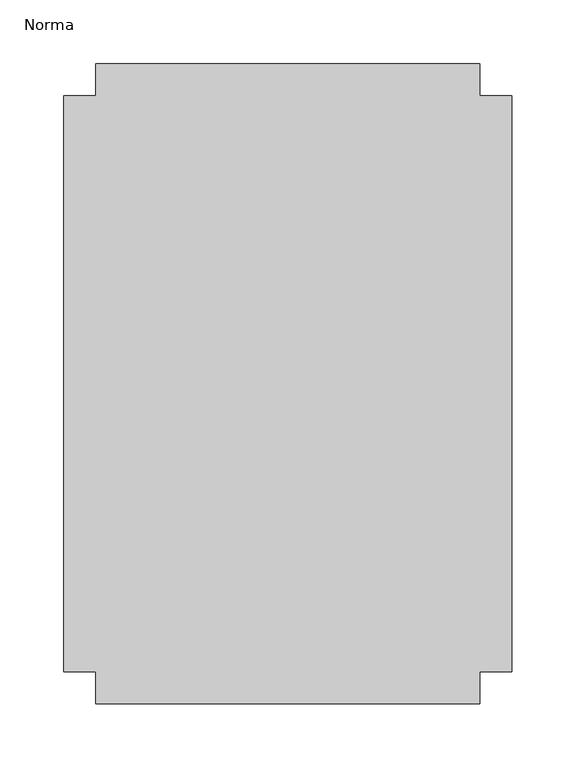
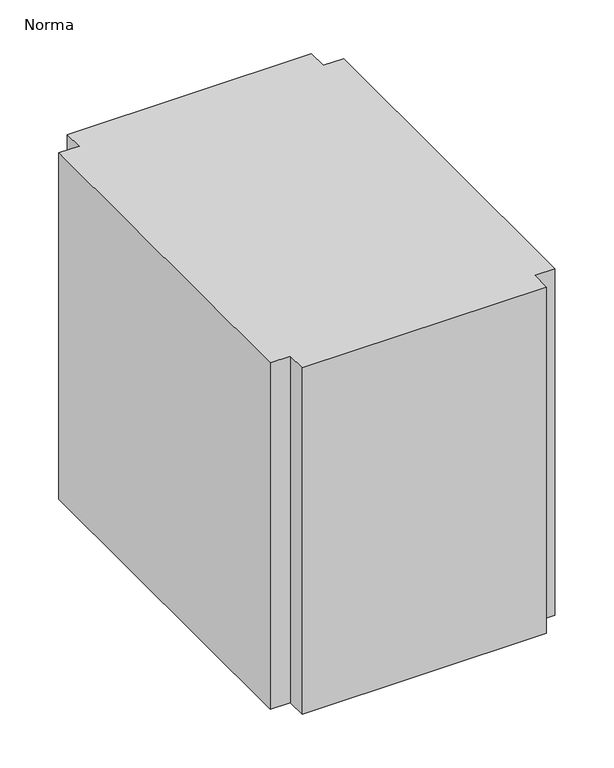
"""IFC4 building model written with IfcOpenShell, lengths in millimetres: duct fitting geometry, M_Cruz rectangular : Norma."""

from ifc_helpers import new_model, si_unit, frame, origin, place, context, project, spatial, polyline, outline, extrude, source, transform, mapped, element, save


def norma_ee759ac8(model_context):
    return source(origin(), model_context, "Body", "SweptSolid", [
        extrude(outline(polyline([(150.0, -250.0), (-150.0, -250.0), (-150.0, -225.0), (-175.0, -225.0), (-175.0, 225.0), (-150.0, 225.0), (-150.0, 250.0), (150.0, 250.0), (150.0, 225.0), (175.0, 225.0), (175.0, -225.0), (150.0, -225.0), (150.0, -250.0)])), frame((0.0, 0.0, -225.0), z_axis=(0.0, 0.0, 1.0), x_axis=(1.0, 0.0, 0.0)), (0.0, 0.0, 1.0), 450.0),
    ])


if __name__ == "__main__":
    model = new_model("IFC4")
    model_context = context("Model", 3, world=origin())
    ifc_project = project(units=[si_unit("LENGTHUNIT", "METRE", prefix="MILLI")], contexts=[model_context])
    site = spatial("IfcSite", under=ifc_project)
    building = spatial("IfcBuilding", under=site)
    placement = place(None, origin())
    norma_shape = norma_ee759ac8(model_context)
    element("IfcDuctFitting", 1, ObjectType="M_Cruz rectangular : Norma", at=placement, inside=building, context=model_context, shape_type="MappedRepresentation", body=[
        mapped(norma_shape, transform((0.0, 0.0, 0.0), x_axis=(1.0, 0.0, 0.0), y_axis=(0.0, 1.0, 0.0), z_axis=(0.0, 0.0, 1.0))),
    ])
    save(model, "model.ifc")
